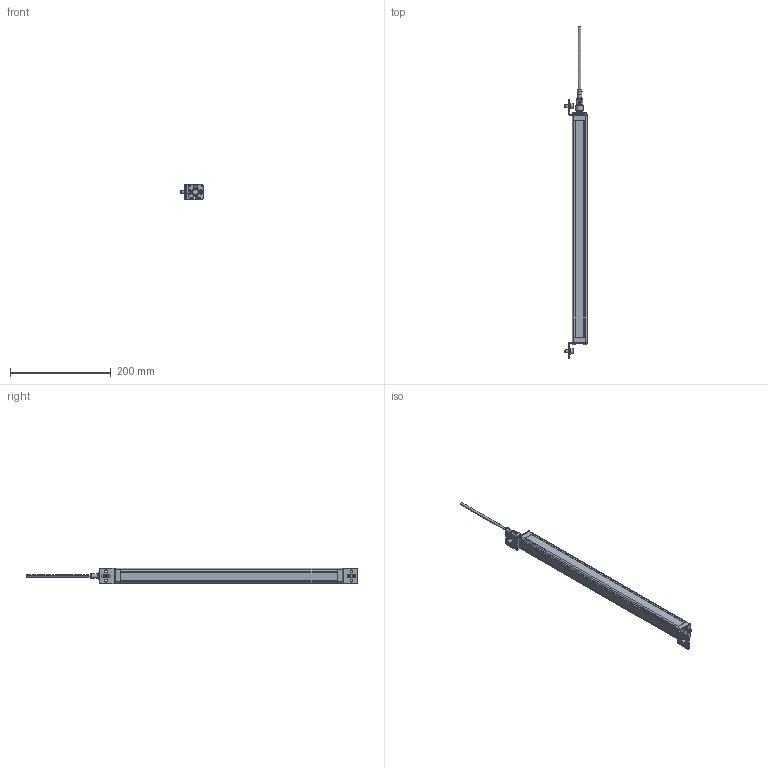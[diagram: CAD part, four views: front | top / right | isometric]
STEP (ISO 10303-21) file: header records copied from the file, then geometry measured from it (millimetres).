
FILE_DESCRIPTION(/* description */ (''),/* implementation_level */ '2;1');
FILE_NAME(/* name */ 'QE22-20-420.prt.stp',/* time_stamp */ '2023-07-18T20:15:39+08:00',/* author */ (''),/* organization */ (''),/* preprocessor_version */ 'ST-DEVELOPER v14',/* originating_system */ 'SIEMENS PLM Software NX 8.0',/* authorisation */ '');
FILE_SCHEMA (('CONFIG_CONTROL_DESIGN'));
Products named in the file (1): QE22-20-420
Bounding box: 44.2 x 658.8 x 30 mm (x, y, z)
Volume: 371586.5 mm3; surface area: 95543.1 mm2
Topology: 25 solids, 25 shells, 615 faces, 1569 edges, 1039 vertices
Faces by surface type: plane 335, cylinder 196, bspline 57, cone 18, sphere 5, torus 4
Full cylindrical faces by diameter (mm): 0.7 x2, 1 x5, 2 x5, 2.2 x8, 3.6 x8, 4 x4, 5.5 x12, 6 x2, 7 x2, 8 x1, 9.04 x1, 9.1 x1, 10 x3, 10.8 x1, 11 x2, 11.85 x1, 11.9 x1, 14.5 x1, 15 x2, 15.2 x2
Entity records: 41715 total; most frequent: CARTESIAN_POINT 27549, ORIENTED_EDGE 2832, DIRECTION 2774, EDGE_CURVE 1416, AXIS2_PLACEMENT_3D 1007, VERTEX_POINT 983, EDGE_LOOP 813, LINE 760
